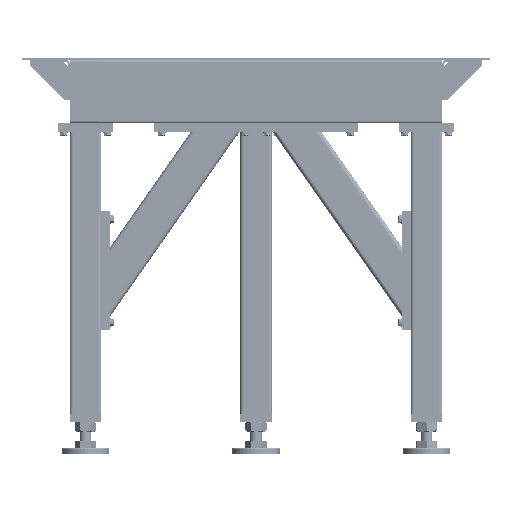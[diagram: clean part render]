
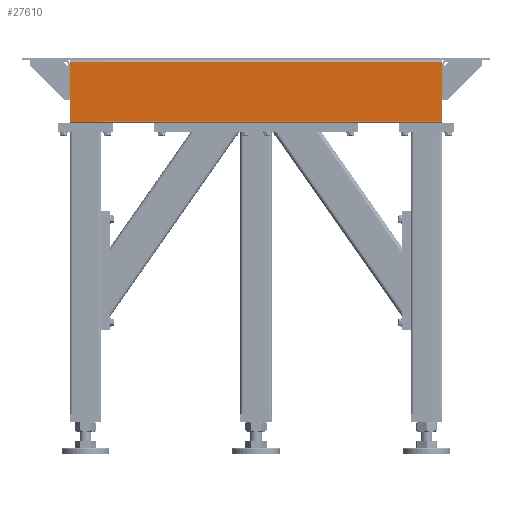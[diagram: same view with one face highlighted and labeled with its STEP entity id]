
A CAD part, left-side view. The second image highlights one B-rep face of the part: STEP entity #27610.
In plain terms, the highlighted planar face has unit normal (-1, 0, 0) as drawn and (1, 0, 0) by its records, which use the part's own axes.
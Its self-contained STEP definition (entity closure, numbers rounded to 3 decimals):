
#1041 = EDGE_CURVE ( 'NONE', #23210, #42334, #40460, .T. ) ;
#1674 = LINE ( 'NONE', #37140, #3176 ) ;
#3111 = CARTESIAN_POINT ( 'NONE',  ( -23174.306, 27020., 74. ) ) ;
#3176 = VECTOR ( 'NONE', #51210, 1000. ) ;
#3214 = CARTESIAN_POINT ( 'NONE',  ( -23174.306, 27920., 74. ) ) ;
#4746 = DIRECTION ( 'NONE',  ( -1., 0., 0. ) ) ;
#9111 = PLANE ( 'NONE',  #18944 ) ;
#9924 = VECTOR ( 'NONE', #42692, 1000. ) ;
#14271 = ORIENTED_EDGE ( 'NONE', *, *, #25003, .F. ) ;
#18117 = LINE ( 'NONE', #23353, #9924 ) ;
#18944 = AXIS2_PLACEMENT_3D ( 'NONE', #52087, #4746, #43049 ) ;
#22107 = ORIENTED_EDGE ( 'NONE', *, *, #54305, .F. ) ;
#23165 = VECTOR ( 'NONE', #51166, 1000. ) ;
#23210 = VERTEX_POINT ( 'NONE', #44124 ) ;
#23353 = CARTESIAN_POINT ( 'NONE',  ( -23174.306, 27920., -74. ) ) ;
#25003 = EDGE_CURVE ( 'NONE', #23210, #30809, #58495, .T. ) ;
#26752 = CARTESIAN_POINT ( 'NONE',  ( -23174.306, 27960., -74. ) ) ;
#27610 = ADVANCED_FACE ( 'NONE', ( #43643 ), #9111, .F. ) ;
#30694 = VECTOR ( 'NONE', #55718, 1000. ) ;
#30809 = VERTEX_POINT ( 'NONE', #40893 ) ;
#32077 = VERTEX_POINT ( 'NONE', #51525 ) ;
#32583 = ORIENTED_EDGE ( 'NONE', *, *, #1041, .T. ) ;
#36596 = ORIENTED_EDGE ( 'NONE', *, *, #50749, .F. ) ;
#37140 = CARTESIAN_POINT ( 'NONE',  ( -23174.306, 27020., -74. ) ) ;
#40460 = LINE ( 'NONE', #3214, #23165 ) ;
#40893 = CARTESIAN_POINT ( 'NONE',  ( -23174.306, 27960., -74. ) ) ;
#42334 = VERTEX_POINT ( 'NONE', #3111 ) ;
#42692 = DIRECTION ( 'NONE',  ( 0., -1., 0. ) ) ;
#43049 = DIRECTION ( 'NONE',  ( 0., 0., 1. ) ) ;
#43643 = FACE_OUTER_BOUND ( 'NONE', #45552, .T. ) ;
#44124 = CARTESIAN_POINT ( 'NONE',  ( -23174.306, 27960., 74. ) ) ;
#45552 = EDGE_LOOP ( 'NONE', ( #14271, #32583, #22107, #36596 ) ) ;
#50749 = EDGE_CURVE ( 'NONE', #30809, #32077, #18117, .T. ) ;
#51166 = DIRECTION ( 'NONE',  ( 0., -1., 0. ) ) ;
#51210 = DIRECTION ( 'NONE',  ( 0., 0., 1. ) ) ;
#51525 = CARTESIAN_POINT ( 'NONE',  ( -23174.306, 27020., -74. ) ) ;
#52087 = CARTESIAN_POINT ( 'NONE',  ( -23174.306, 27920., -74. ) ) ;
#54305 = EDGE_CURVE ( 'NONE', #32077, #42334, #1674, .T. ) ;
#55718 = DIRECTION ( 'NONE',  ( 0., 0., -1. ) ) ;
#58495 = LINE ( 'NONE', #26752, #30694 ) ;
